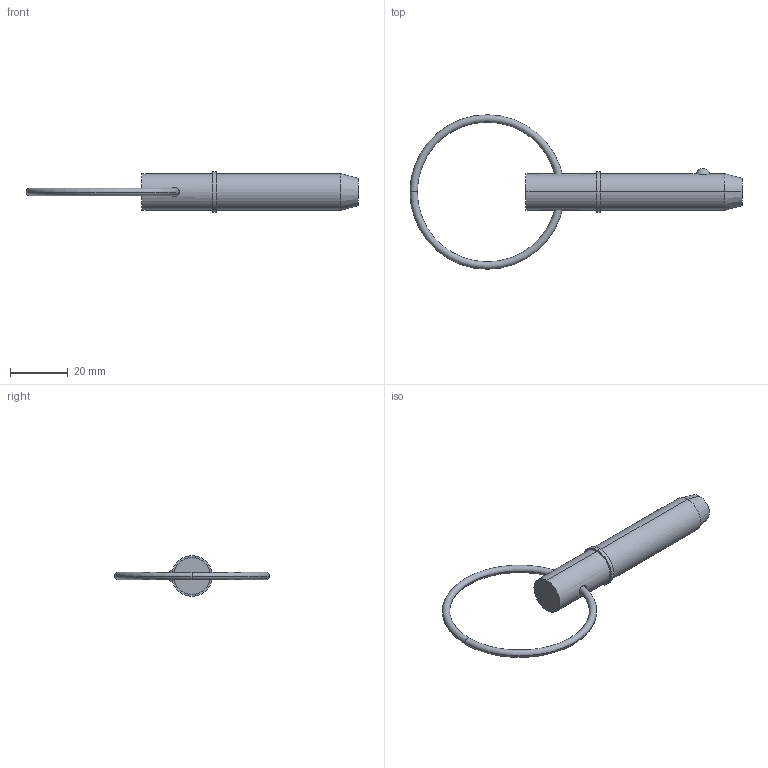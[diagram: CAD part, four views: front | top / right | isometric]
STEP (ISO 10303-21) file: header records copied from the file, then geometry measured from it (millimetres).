
FILE_DESCRIPTION (( 'STEP AP203' ), '1' );
FILE_NAME ('33016.W5013.step', '2024-11-07T11:08:39', ( '' ), ( '' ), 'SwSTEP 2.0', 'SolidWorks 2019', '' );
FILE_SCHEMA (( 'CONFIG_CONTROL_DESIGN' ));
Length unit declared in the file: millimetre
Products named in the file (3): Part2_33016.W5013; 33016.W5013; Part1_33016.W5013
Assembly tree (2 placements, depth 2):
  33016.W5013
    Part1_33016.W5013
    Part2_33016.W5013
Bounding box: 114.65 x 53.34 x 13.97 mm (x, y, z)
Volume: 10039.9 mm3; surface area: 4605.8 mm2
Topology: 2 solids, 2 shells, 22 faces, 43 edges, 26 vertices
Faces by surface type: torus 8, cylinder 6, plane 4, sphere 2, cone 2
Entity records: 1039 total; most frequent: CARTESIAN_POINT 262, DIRECTION 120, ORIENTED_EDGE 86, AXIS2_PLACEMENT_3D 56, EDGE_CURVE 43, CIRCLE 29, EDGE_LOOP 27, VERTEX_POINT 26
